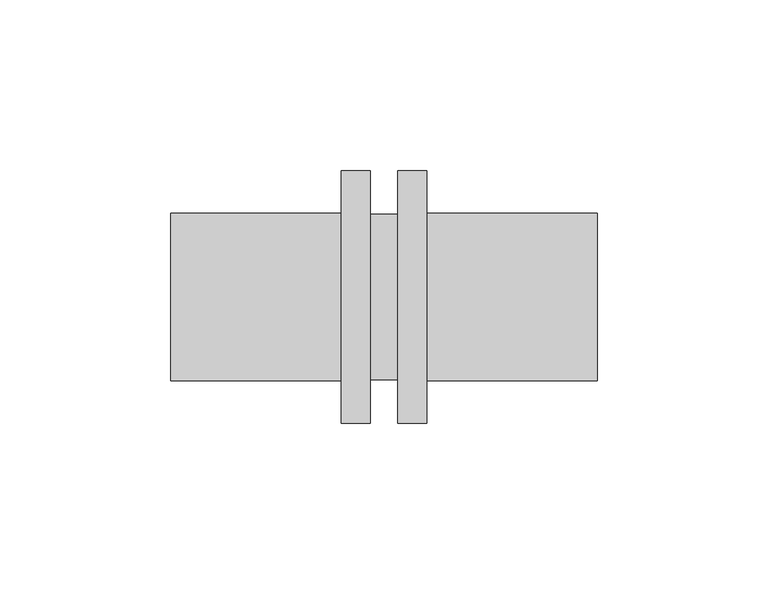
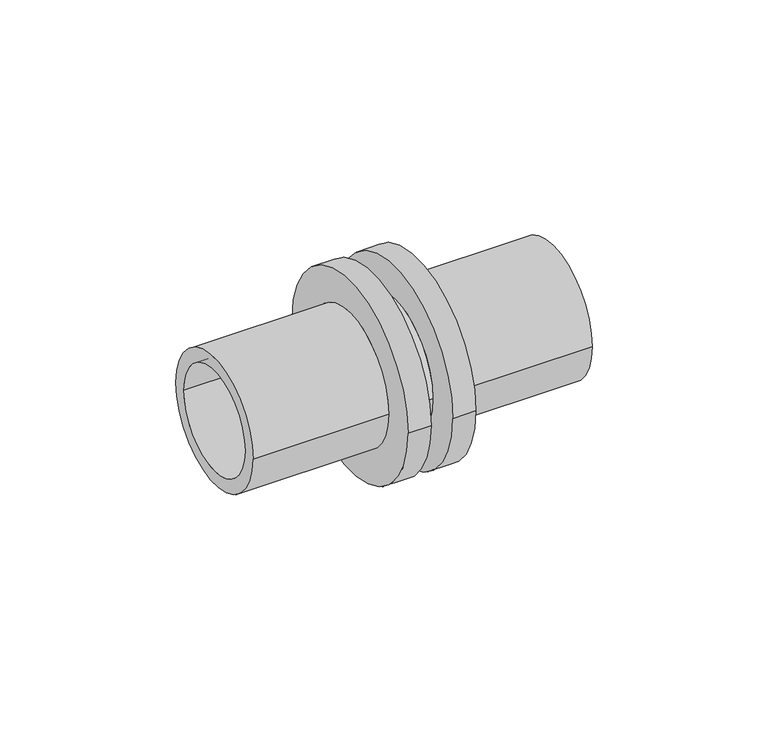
"""IFC4 building model written with IfcOpenShell, lengths in millimetres: pipe fitting geometry, RAUTITAN_Union_LX : RTI LX U DE."""

from ifc_helpers import new_model, si_unit, frame, origin, place, context, project, spatial, polyline, circle_curve, source, transform, mapped, element, save
from ifc_brep_helpers import plane_surface, cylinder_surface, revolved_surface, advanced_brep


def pipe_fitting_1c786bbc(model_context):
    return source(origin(), model_context, "Body", "AdvancedBrep", [
        advanced_brep(
        [(-62.5, 19.5, 0.0), (-62.5, -19.5, 0.0), (62.5, -19.5, 0.0), (62.5, 19.5, 0.0), (-12.5, 24.6, 0.0), (-12.5, -24.6, 0.0), (-62.5, -24.6, 0.0), (-62.5, 24.6, 0.0), (-4.0, 37.0, 0.0), (-4.0, -37.0, 0.0), (-12.5, -37.0, 0.0), (-12.5, 37.0, 0.0), (4.0, 24.3, 0.0), (4.0, -24.3, 0.0), (-4.0, -24.3, 0.0), (-4.0, 24.3, 0.0), (12.5, 37.0, 0.0), (12.5, -37.0, 0.0), (4.0, -37.0, 0.0), (4.0, 37.0, 0.0), (62.5, 24.6, 0.0), (62.5, -24.6, 0.0), (12.5, -24.6, 0.0), (12.5, 24.6, 0.0)],
        [
            (0, 1, circle_curve(frame((-62.5, 0.0, 0.0), z_axis=(-1.0, 0.0, 0.0), x_axis=(0.0, -1.0, 0.0)), 19.5)),
            (1, 2),
            (2, 3, circle_curve(frame((62.5, 0.0, 0.0), z_axis=(1.0, 0.0, 0.0), x_axis=(0.0, -1.0, 0.0)), 19.5)),
            (3, 0),
            (4, 5, circle_curve(frame((-12.5, 0.0, 0.0), z_axis=(-1.0, 0.0, 0.0), x_axis=(0.0, -1.0, 0.0)), 24.6)),
            (5, 6),
            (6, 7, circle_curve(frame((-62.5, 0.0, 0.0), z_axis=(1.0, 0.0, 0.0), x_axis=(0.0, -1.0, 0.0)), 24.6)),
            (7, 4),
            (8, 9, circle_curve(frame((-4.0, 0.0, 0.0), z_axis=(-1.0, 0.0, 0.0), x_axis=(0.0, -1.0, 0.0)), 37.0)),
            (9, 10),
            (10, 11, circle_curve(frame((-12.5, 0.0, 0.0), z_axis=(1.0, 0.0, 0.0), x_axis=(0.0, -1.0, 0.0)), 37.0)),
            (11, 8),
            (12, 13, circle_curve(frame((4.0, 0.0, 0.0), z_axis=(-1.0, 0.0, 0.0), x_axis=(0.0, -1.0, 0.0)), 24.3)),
            (13, 14),
            (14, 15, circle_curve(frame((-4.0, 0.0, 0.0), z_axis=(1.0, 0.0, 0.0), x_axis=(0.0, -1.0, 0.0)), 24.3)),
            (15, 12),
            (16, 17, circle_curve(frame((12.5, 0.0, 0.0), z_axis=(-1.0, 0.0, 0.0), x_axis=(0.0, -1.0, 0.0)), 37.0)),
            (17, 18),
            (18, 19, circle_curve(frame((4.0, 0.0, 0.0), z_axis=(1.0, 0.0, 0.0), x_axis=(0.0, -1.0, 0.0)), 37.0)),
            (19, 16),
            (20, 21, circle_curve(frame((62.5, 0.0, 0.0), z_axis=(-1.0, 0.0, 0.0), x_axis=(0.0, -1.0, 0.0)), 24.6)),
            (21, 22),
            (22, 23, circle_curve(frame((12.5, 0.0, 0.0), z_axis=(1.0, 0.0, 0.0), x_axis=(0.0, -1.0, 0.0)), 24.6)),
            (23, 20),
            (1, 0, circle_curve(frame((-62.5, 0.0, 0.0), z_axis=(-1.0, 0.0, 0.0), x_axis=(0.0, 1.0, 0.0)), 19.5)),
            (3, 2, circle_curve(frame((62.5, 0.0, 0.0), z_axis=(1.0, 0.0, 0.0), x_axis=(0.0, 1.0, 0.0)), 19.5)),
            (6, 7, circle_curve(frame((-62.5, 0.0, 0.0), z_axis=(-1.0, 0.0, 0.0), x_axis=(0.0, 1.0, 0.0)), 24.6)),
            (5, 4, circle_curve(frame((-12.5, 0.0, 0.0), z_axis=(-1.0, 0.0, 0.0), x_axis=(0.0, 1.0, 0.0)), 24.6)),
            (10, 11, circle_curve(frame((-12.5, 0.0, 0.0), z_axis=(-1.0, 0.0, 0.0), x_axis=(0.0, 1.0, 0.0)), 37.0)),
            (9, 8, circle_curve(frame((-4.0, 0.0, 0.0), z_axis=(-1.0, 0.0, 0.0), x_axis=(0.0, 1.0, 0.0)), 37.0)),
            (14, 15, circle_curve(frame((-4.0, 0.0, 0.0), z_axis=(-1.0, 0.0, 0.0), x_axis=(0.0, 1.0, 0.0)), 24.3)),
            (13, 12, circle_curve(frame((4.0, 0.0, 0.0), z_axis=(-1.0, 0.0, 0.0), x_axis=(0.0, 1.0, 0.0)), 24.3)),
            (18, 19, circle_curve(frame((4.0, 0.0, 0.0), z_axis=(-1.0, 0.0, 0.0), x_axis=(0.0, 1.0, 0.0)), 37.0)),
            (17, 16, circle_curve(frame((12.5, 0.0, 0.0), z_axis=(-1.0, 0.0, 0.0), x_axis=(0.0, 1.0, 0.0)), 37.0)),
            (22, 23, circle_curve(frame((12.5, 0.0, 0.0), z_axis=(-1.0, 0.0, 0.0), x_axis=(0.0, 1.0, 0.0)), 24.6)),
            (21, 20, circle_curve(frame((62.5, 0.0, 0.0), z_axis=(-1.0, 0.0, 0.0), x_axis=(0.0, 1.0, 0.0)), 24.6)),
        ],
        [
            revolved_surface(polyline([(62.5, -19.5, 0.0), (-62.5, -19.5, 0.0)]), (0.0, 0.0, 0.0), (1.0, 0.0, 0.0)),
            cylinder_surface(frame((0.0, 0.0, 0.0), z_axis=(1.0, 0.0, 0.0), x_axis=(0.0, -1.0, 0.0)), 24.6),
            cylinder_surface(frame((0.0, 0.0, 0.0), z_axis=(1.0, 0.0, 0.0), x_axis=(0.0, -1.0, 0.0)), 37.0),
            cylinder_surface(frame((0.0, 0.0, 0.0), z_axis=(1.0, 0.0, 0.0), x_axis=(0.0, -1.0, 0.0)), 24.3),
            revolved_surface(polyline([(62.5, 19.5, 0.0), (-62.5, 19.5, 0.0)]), (0.0, 0.0, 0.0), (1.0, 0.0, 0.0)),
            plane_surface(frame((-62.5, 0.0, 0.0), z_axis=(-1.0, 0.0, 0.0), x_axis=(0.0, 1.0, 0.0))),
            cylinder_surface(frame((0.0, 0.0, 0.0), z_axis=(1.0, 0.0, 0.0), x_axis=(0.0, 1.0, 0.0)), 24.6),
            plane_surface(frame((-12.5, 0.0, 0.0), z_axis=(-1.0, 0.0, 0.0), x_axis=(0.0, 1.0, 0.0))),
            cylinder_surface(frame((0.0, 0.0, 0.0), z_axis=(1.0, 0.0, 0.0), x_axis=(0.0, 1.0, 0.0)), 37.0),
            plane_surface(frame((-4.0, 0.0, 0.0), z_axis=(1.0, 0.0, 0.0), x_axis=(0.0, 1.0, 0.0))),
            cylinder_surface(frame((0.0, 0.0, 0.0), z_axis=(1.0, 0.0, 0.0), x_axis=(0.0, 1.0, 0.0)), 24.3),
            plane_surface(frame((4.0, 0.0, 0.0), z_axis=(-1.0, 0.0, 0.0), x_axis=(0.0, 1.0, 0.0))),
            plane_surface(frame((12.5, 0.0, 0.0), z_axis=(1.0, 0.0, 0.0), x_axis=(0.0, 1.0, 0.0))),
            plane_surface(frame((62.5, 0.0, 0.0), z_axis=(1.0, 0.0, 0.0), x_axis=(0.0, 1.0, 0.0))),
        ],
        [
            (0, [[1, 2, 3, 4]]),
            (1, [[5, 6, 7, 8]]),
            (2, [[9, 10, 11, 12]]),
            (3, [[13, 14, 15, 16]]),
            (2, [[17, 18, 19, 20]]),
            (1, [[21, 22, 23, 24]]),
            (4, [[25, -4, 26, -2]]),
            (5, [[27, -7], [-25, -1]]),
            (6, [[28, -8, -27, -6]]),
            (7, [[29, -11], [-28, -5]]),
            (8, [[30, -12, -29, -10]]),
            (9, [[-30, -9], [31, -15]]),
            (10, [[32, -16, -31, -14]]),
            (11, [[33, -19], [-32, -13]]),
            (8, [[34, -20, -33, -18]]),
            (12, [[-34, -17], [35, -23]]),
            (6, [[36, -24, -35, -22]]),
            (13, [[-36, -21], [-26, -3]]),
        ],
    ),
    ])


if __name__ == "__main__":
    model = new_model("IFC4")
    model_context = context("Model", 3, world=origin())
    ifc_project = project(units=[si_unit("LENGTHUNIT", "METRE", prefix="MILLI")], contexts=[model_context])
    site = spatial("IfcSite", under=ifc_project)
    building = spatial("IfcBuilding", under=site)
    placement = place(None, origin())
    pipe_fitting_shape = pipe_fitting_1c786bbc(model_context)
    element("IfcPipeFitting", 1, ObjectType="RAUTITAN_Union_LX : RTI LX U DE", at=placement, inside=building, context=model_context, shape_type="MappedRepresentation", body=[
        mapped(pipe_fitting_shape, transform((0.0, 0.0, 0.0), x_axis=(1.0, 0.0, 0.0), y_axis=(0.0, 1.0, 0.0), z_axis=(0.0, 0.0, 1.0))),
    ])
    save(model, "model.ifc")
